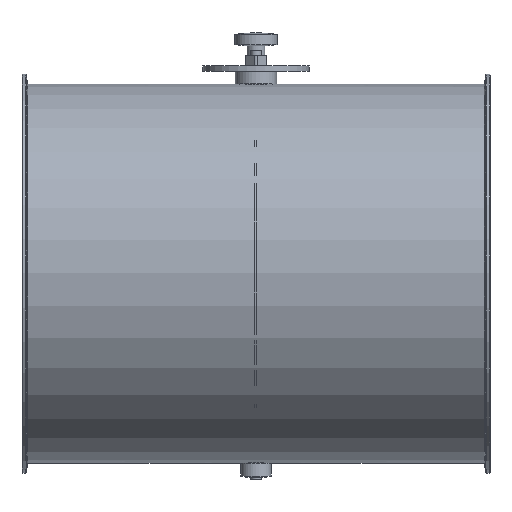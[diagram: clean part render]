
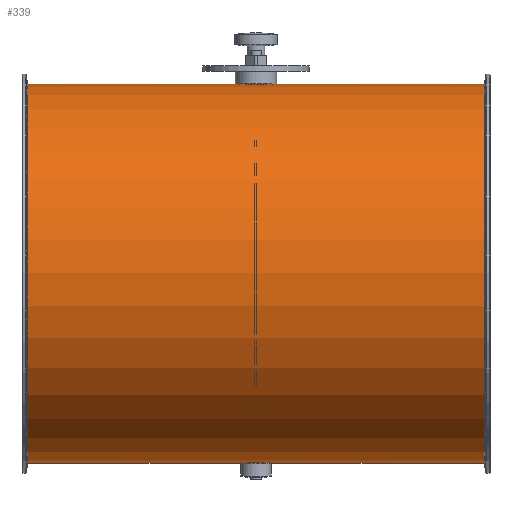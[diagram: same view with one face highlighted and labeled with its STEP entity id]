
A CAD part, top view. The second image highlights one B-rep face of the part: STEP entity #339.
In plain terms, the highlighted cylindrical face has radius 178.3 mm (diameter 356.6 mm), a full revolution.
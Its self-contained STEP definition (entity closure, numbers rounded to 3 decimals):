
#103=B_SPLINE_CURVE_WITH_KNOTS('',3,(#1989,#1990,#1991,#1992,#1993,#1994,
#1995,#1996,#1997,#1998,#1999,#2000,#2001,#2002,#2003,#2004,#2005,#2006),
 .UNSPECIFIED.,.T.,.F.,(2,2,2,2,2,2,2,2,2,2,2),(-0.125,0.,0.125,0.25,0.375,
0.5,0.625,0.75,0.875,1.,1.125),.UNSPECIFIED.);
#104=B_SPLINE_CURVE_WITH_KNOTS('',3,(#2008,#2009,#2010,#2011,#2012,#2013,
#2014,#2015,#2016,#2017,#2018,#2019,#2020,#2021,#2022,#2023,#2024,#2025),
 .UNSPECIFIED.,.T.,.F.,(2,2,2,2,2,2,2,2,2,2,2),(-0.125,0.,0.125,0.25,0.375,
0.5,0.625,0.75,0.875,1.,1.125),.UNSPECIFIED.);
#266=CYLINDRICAL_SURFACE('',#1351,178.3);
#339=ADVANCED_FACE('',(#495,#496,#497,#498),#266,.T.);
#495=FACE_BOUND('',#657,.T.);
#496=FACE_BOUND('',#658,.T.);
#497=FACE_BOUND('',#659,.T.);
#498=FACE_BOUND('',#660,.T.);
#657=EDGE_LOOP('',(#893));
#658=EDGE_LOOP('',(#894));
#659=EDGE_LOOP('',(#895));
#660=EDGE_LOOP('',(#896));
#893=ORIENTED_EDGE('',*,*,#1135,.T.);
#894=ORIENTED_EDGE('',*,*,#1136,.F.);
#895=ORIENTED_EDGE('',*,*,#1137,.F.);
#896=ORIENTED_EDGE('',*,*,#1138,.T.);
#1017=VERTEX_POINT('',#1988);
#1018=VERTEX_POINT('',#2007);
#1019=VERTEX_POINT('',#2026);
#1020=VERTEX_POINT('',#2028);
#1135=EDGE_CURVE('',#1017,#1017,#1211,.T.);
#1136=EDGE_CURVE('',#1018,#1018,#103,.T.);
#1137=EDGE_CURVE('',#1019,#1019,#104,.T.);
#1138=EDGE_CURVE('',#1020,#1020,#1212,.T.);
#1211=CIRCLE('',#1349,178.3);
#1212=CIRCLE('',#1350,178.3);
#1349=AXIS2_PLACEMENT_3D('',#1987,#1669,#1670);
#1350=AXIS2_PLACEMENT_3D('',#2027,#1671,#1672);
#1351=AXIS2_PLACEMENT_3D('',#2029,#1673,#1674);
#1669=DIRECTION('',(-1.,0.,0.));
#1670=DIRECTION('',(0.,0.,-1.));
#1671=DIRECTION('',(1.,0.,0.));
#1672=DIRECTION('',(0.,0.,1.));
#1673=DIRECTION('',(1.,0.,0.));
#1674=DIRECTION('',(0.,0.,-1.));
#1987=CARTESIAN_POINT('',(214.804,-51.,125.));
#1988=CARTESIAN_POINT('',(214.804,-51.,-53.3));
#1989=CARTESIAN_POINT('',(2.643,127.019,115.));
#1990=CARTESIAN_POINT('',(-2.643,127.019,115.));
#1991=CARTESIAN_POINT('',(-5.227,127.087,116.085));
#1992=CARTESIAN_POINT('',(-8.916,127.233,119.775));
#1993=CARTESIAN_POINT('',(-9.999,127.3,122.385));
#1994=CARTESIAN_POINT('',(-10.001,127.3,127.604));
#1995=CARTESIAN_POINT('',(-8.941,127.234,130.2));
#1996=CARTESIAN_POINT('',(-5.209,127.086,133.935));
#1997=CARTESIAN_POINT('',(-2.614,127.019,134.999));
#1998=CARTESIAN_POINT('',(2.607,127.019,135.001));
#1999=CARTESIAN_POINT('',(5.218,127.086,133.92));
#2000=CARTESIAN_POINT('',(8.91,127.233,130.236));
#2001=CARTESIAN_POINT('',(9.997,127.3,127.649));
#2002=CARTESIAN_POINT('',(10.003,127.3,122.371));
#2003=CARTESIAN_POINT('',(8.921,127.233,119.782));
#2004=CARTESIAN_POINT('',(5.232,127.087,116.087));
#2005=CARTESIAN_POINT('',(2.643,127.019,115.));
#2006=CARTESIAN_POINT('',(-2.643,127.019,115.));
#2007=CARTESIAN_POINT('',(0.,127.019,115.));
#2008=CARTESIAN_POINT('',(-2.643,-229.019,115.));
#2009=CARTESIAN_POINT('',(2.643,-229.019,115.));
#2010=CARTESIAN_POINT('',(5.227,-229.087,116.085));
#2011=CARTESIAN_POINT('',(8.916,-229.233,119.775));
#2012=CARTESIAN_POINT('',(9.999,-229.3,122.385));
#2013=CARTESIAN_POINT('',(10.001,-229.3,127.604));
#2014=CARTESIAN_POINT('',(8.941,-229.234,130.2));
#2015=CARTESIAN_POINT('',(5.209,-229.086,133.935));
#2016=CARTESIAN_POINT('',(2.614,-229.019,134.999));
#2017=CARTESIAN_POINT('',(-2.607,-229.019,135.001));
#2018=CARTESIAN_POINT('',(-5.218,-229.086,133.92));
#2019=CARTESIAN_POINT('',(-8.91,-229.233,130.236));
#2020=CARTESIAN_POINT('',(-9.997,-229.3,127.649));
#2021=CARTESIAN_POINT('',(-10.003,-229.3,122.371));
#2022=CARTESIAN_POINT('',(-8.921,-229.233,119.782));
#2023=CARTESIAN_POINT('',(-5.232,-229.087,116.087));
#2024=CARTESIAN_POINT('',(-2.643,-229.019,115.));
#2025=CARTESIAN_POINT('',(2.643,-229.019,115.));
#2026=CARTESIAN_POINT('',(0.,-229.019,115.));
#2027=CARTESIAN_POINT('',(-214.804,-51.,125.));
#2028=CARTESIAN_POINT('',(-214.804,-51.,303.3));
#2029=CARTESIAN_POINT('',(-220.,-51.,125.));
